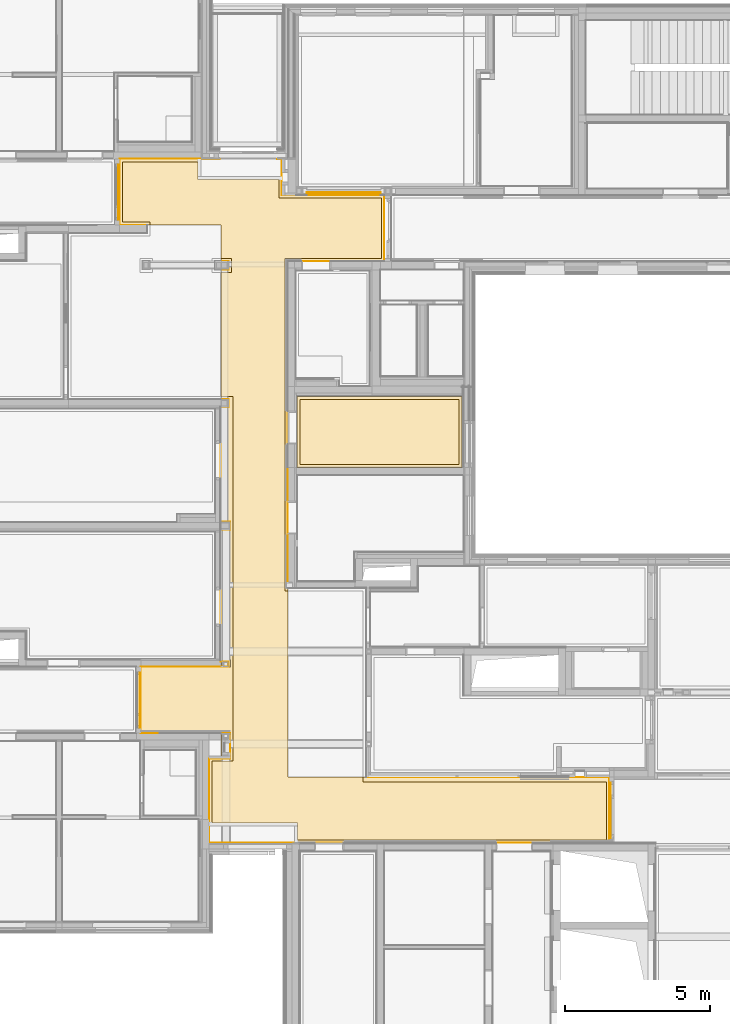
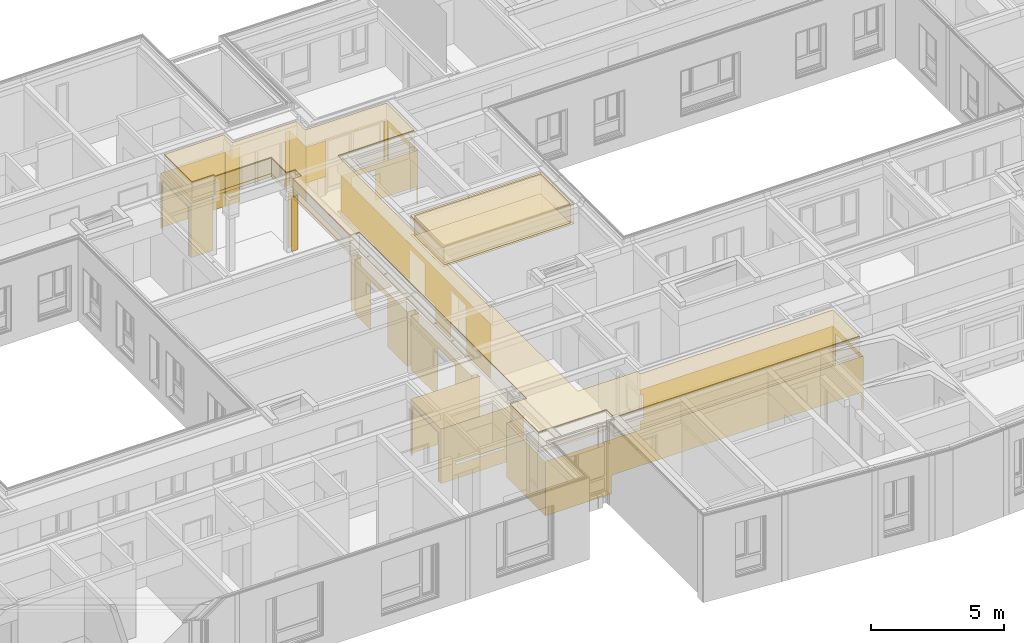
# One storey, part 171 of 222: 14 coverings.
"""IFC4 building model written with IfcOpenShell, lengths in metres."""

from ifc_helpers import new_model, entity, si_unit, converted_unit, derived_unit, frame, frame_2d, origin, place, context, subcontext, project, spatial, polyline, rectangle, outline, extrude, material, layer, layer_set, layer_usage, element, save


model = new_model("IFC4")

# Units and contexts
model_context = context("Model", 3, precision=1e-05, world=origin())
body_context = subcontext(model_context, "Body", "Model", "MODEL_VIEW")
ifc_project = project(units=[si_unit("LENGTHUNIT", "METRE"), si_unit("AREAUNIT", "SQUARE_METRE"), si_unit("VOLUMEUNIT", "CUBIC_METRE"), si_unit("MASSUNIT", "GRAM", prefix="KILO"), converted_unit("PLANEANGLEUNIT", "DEGREE", entity("IfcPlaneAngleMeasure", 0.0174532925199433), si_unit("PLANEANGLEUNIT", "RADIAN"), dimensions=[0, 0, 0, 0, 0, 0, 0]), derived_unit("THERMALTRANSMITTANCEUNIT", [(si_unit("POWERUNIT", "WATT"), 1), (si_unit("THERMODYNAMICTEMPERATUREUNIT", "KELVIN"), -1), (si_unit("LENGTHUNIT", "METRE"), -2)]), derived_unit("VOLUMETRICFLOWRATEUNIT", [(si_unit("LENGTHUNIT", "METRE"), 3), (converted_unit("TIMEUNIT", "hour", entity("IfcTimeMeasure", 3600.0), si_unit("TIMEUNIT", "SECOND"), dimensions=[0, 0, 1, 0, 0, 0, 0]), -1), (si_unit("LENGTHUNIT", "METRE"), -1)])], contexts=[model_context])

# Site, building, storey, space
site_placement = place(None, origin())
site = spatial("IfcSite", under=ifc_project, at=site_placement, Name="Psychiatrie Neubau Wunstorf", CompositionType="ELEMENT")
building_placement = place(site_placement, origin())
building = spatial("IfcBuilding", under=site, at=building_placement, Name="Neubau H2 Stationsgebäude", CompositionType="ELEMENT")
storey_placement = place(building_placement, frame((0.0, 0.0, 3.6)))
storey = spatial("IfcBuildingStorey", under=building, at=storey_placement, Name="H2 Ebene +1", CompositionType="ELEMENT", Elevation=3.6)
space_1_placement = place(storey_placement, frame((32.083, 0.550000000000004, 0.0)))
space_1 = spatial("IfcSpace", under=storey, at=space_1_placement, Name="WUN-H2-E01-F03", CompositionType="ELEMENT")

# Coverings
ifc_material_1 = material(Name="D1")
ifc_layer_1 = layer(ifc_material_1, 0.001)
ifc_layer_set_1 = layer_set([ifc_layer_1])
ifc_layer_usage_1 = layer_usage(ifc_layer_set_1, "AXIS3", "POSITIVE", 0.0)
covering_1_placement = place(space_1_placement, frame((0.0, 0.0, 2.65)))
element("IfcCovering", 1, at=covering_1_placement, inside=space_1, material=ifc_layer_usage_1, Name="Gipsfaserplatten 2-lagig (BSK)", PredefinedType="CEILING", context=body_context, shape_type="SweptSolid", body=[
    extrude(outline(polyline([(16.0461906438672, 15.2824990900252), (16.0461906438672, 13.2924992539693), (7.65649755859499, 13.2924992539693), (7.65649755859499, 13.1149993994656), (16.1461906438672, 13.1149993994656), (16.1461906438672, 15.3824990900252), (5.29250000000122, 15.3824990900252), (5.29250000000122, 14.7964966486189), (2.34600000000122, 14.7964966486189), (2.34600000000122, 12.4617494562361), (2.75150000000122, 12.4617494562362), (2.75150000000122, 11.6017494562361), (0.0, 11.6017494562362), (0.0, 9.3204990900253), (2.75150000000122, 9.32049909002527), (2.75150000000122, 4.5949415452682), (3.08250000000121, 4.5949415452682), (3.08250000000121, 4.3229415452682), (2.75150000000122, 4.3229415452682), (2.75150000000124, 0.372), (3.02750000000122, 0.372), (3.02750000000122, 0.1), (2.75150000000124, 0.1), (2.75150000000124, 0.0), (3.16750000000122, 0.0), (3.16750000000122, 12.5617494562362), (2.44600000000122, 12.5617494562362), (2.44600000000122, 14.6964966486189), (5.39250000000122, 14.6964966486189), (5.39250000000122, 15.2824990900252), (16.0461906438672, 15.2824990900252)]), holes=[polyline([(2.7815000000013, 12.4617494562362), (3.08249501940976, 12.4617494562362), (3.08249501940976, 11.6017494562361), (2.7815000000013, 11.6017494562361), (2.7815000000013, 12.4617494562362)]), polyline([(3.08273964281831, 9.32050052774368), (3.08273964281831, 9.06950052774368), (2.78150000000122, 9.06949909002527), (2.78150000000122, 9.32049909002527), (3.08273964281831, 9.32050052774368)])]), frame((0.735499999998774, 15.3824990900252, 0.0), z_axis=(0.0, 0.0, -1.0), x_axis=(1.0, 0.0, 0.0)), (0.0, 0.0, 1.0), 0.001),
    extrude(outline(polyline([(9.02499999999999, 3.43150563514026), (9.02499999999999, 1.3535009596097), (5.49599999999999, 1.35349729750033), (5.49599999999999, 0.702500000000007), (2.70599999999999, 0.702500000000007), (2.70599999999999, 0.1), (0.0999999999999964, 0.100000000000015), (0.0999999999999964, 2.18149999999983), (1.04999999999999, 2.18149999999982), (1.04999999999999, 2.28149999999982), (0.0, 2.28149999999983), (0.0, 0.0), (2.80599999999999, 0.0), (2.80599999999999, 0.602500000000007), (5.59599999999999, 0.602500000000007), (5.59599999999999, 1.25349729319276), (9.12499999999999, 1.25350095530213), (9.12499999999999, 3.53150563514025), (5.79949999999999, 3.53150197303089), (5.79949999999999, 14.8950037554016), (5.69949999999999, 14.8950037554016), (5.69949999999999, 3.43150197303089), (9.02499999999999, 3.43150563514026)])), frame((0.0, 23.5675, 0.0), z_axis=(0.0, 0.0, -1.0), x_axis=(1.0, 0.0, 0.0)), (0.0, 0.0, 1.0), 0.001),
    extrude(outline(polyline([(0.0, 0.0), (0.376000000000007, 0.0), (0.376000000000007, 0.481998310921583), (0.0, 0.481998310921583), (0.0, 0.382), (0.276000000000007, 0.382), (0.276000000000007, 0.1), (0.0, 0.1), (0.0, 0.0)])), frame((3.48699999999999, 20.1359963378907, 0.0), z_axis=(0.0, 0.0, -1.0), x_axis=(1.0, 0.0, 0.0)), (0.0, 0.0, 1.0), 0.001),
])
ifc_material_2 = material()
ifc_layer_2 = layer(ifc_material_2, 0.036)
ifc_layer_set_2 = layer_set([ifc_layer_2])
ifc_layer_usage_2 = layer_usage(ifc_layer_set_2, "AXIS3", "POSITIVE", 0.0)
covering_2_placement = place(space_1_placement, frame((0.0999999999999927, 0.0999999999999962, 3.55)))
element("IfcCovering", 2, at=covering_2_placement, inside=space_1, material=ifc_layer_usage_2, Name="Gipsfaserplatten 2-lagig (BSK)", PredefinedType="CEILING", context=body_context, shape_type="SweptSolid", body=[
    extrude(outline(polyline([(8.29199755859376, 21.2000003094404), (8.29199755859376, 21.3775001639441), (16.6816906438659, 21.3775001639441), (16.6816906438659, 23.3675), (6.028, 23.3675), (6.028, 22.7814975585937), (3.0815, 22.7814975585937), (3.0815, 20.6467503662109), (3.80299999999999, 20.6467503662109), (3.80299999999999, 8.08500090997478), (3.387, 8.08500090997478), (3.387, 3.81350197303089), (3.763, 3.81350197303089), (3.763, 3.33150366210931), (3.38699999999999, 3.33150366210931), (3.38699999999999, 2.18149999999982), (0.949999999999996, 2.18149999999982), (0.949999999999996, 2.08149999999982), (0.0, 2.08149999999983), (0.0, 0.0), (2.606, 0.0), (2.606, 0.602500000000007), (5.396, 0.602500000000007), (5.396, 1.25349729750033), (8.925, 1.2535009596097), (8.925, 3.33150563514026), (5.5995, 3.33150197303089), (5.5995, 14.7950037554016), (5.6995, 14.7950037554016), (5.6995, 21.2000003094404), (8.29199755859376, 21.2000003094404)])), frame((0.0, 23.3675, 0.0), z_axis=(0.0, 0.0, -1.0), x_axis=(1.0, 0.0, 0.0)), (0.0, 0.0, 1.0), 0.036),
])
ifc_material_3 = material(Name="Installationshöhe")
ifc_layer_3 = layer(ifc_material_3, 0.714)
ifc_layer_set_3 = layer_set([ifc_layer_3])
ifc_layer_usage_3 = layer_usage(ifc_layer_set_3, "AXIS3", "POSITIVE", 0.0)
covering_3_placement = place(space_1_placement, frame((0.0999999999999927, 0.0999999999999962, 3.514)))
element("IfcCovering", 3, at=covering_3_placement, inside=space_1, material=ifc_layer_usage_3, Name="Gipsfaserplatten 2-lagig (BSK)", PredefinedType="CEILING", context=body_context, shape_type="SweptSolid", body=[
    extrude(outline(polyline([(8.29199755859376, 21.2000003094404), (8.29199755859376, 21.3775001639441), (16.6816906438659, 21.3775001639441), (16.6816906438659, 23.3675), (6.028, 23.3675), (6.028, 22.7814975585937), (3.0815, 22.7814975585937), (3.0815, 20.6467503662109), (3.80299999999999, 20.6467503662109), (3.80299999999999, 8.08500090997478), (3.387, 8.08500090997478), (3.387, 3.81350197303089), (3.763, 3.81350197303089), (3.763, 3.33150366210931), (3.38699999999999, 3.33150366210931), (3.38699999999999, 2.18149999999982), (0.949999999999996, 2.18149999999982), (0.949999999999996, 2.08149999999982), (0.0, 2.08149999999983), (0.0, 0.0), (2.606, 0.0), (2.606, 0.602500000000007), (5.396, 0.602500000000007), (5.396, 1.25349729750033), (8.925, 1.2535009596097), (8.925, 3.33150563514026), (5.5995, 3.33150197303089), (5.5995, 14.7950037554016), (5.6995, 14.7950037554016), (5.6995, 21.2000003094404), (8.29199755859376, 21.2000003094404)])), frame((0.0, 23.3675, 0.0), z_axis=(0.0, 0.0, -1.0), x_axis=(1.0, 0.0, 0.0)), (0.0, 0.0, 1.0), 0.714),
])
ifc_material_4 = material(Name="Aa")
ifc_layer_4 = layer(ifc_material_4, 0.15)
ifc_layer_set_4 = layer_set([ifc_layer_4])
ifc_layer_usage_4 = layer_usage(ifc_layer_set_4, "AXIS3", "POSITIVE", 0.0)
covering_4_placement = place(space_1_placement, frame((0.0999999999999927, 0.0999999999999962, 2.8)))
element("IfcCovering", 4, at=covering_4_placement, inside=space_1, material=ifc_layer_usage_4, Name="Gipsfaserplatten 2-lagig (BSK)", PredefinedType="CEILING", context=body_context, shape_type="SweptSolid", body=[
    extrude(outline(polyline([(8.29199755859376, 21.2000003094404), (8.29199755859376, 21.3775001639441), (16.6816906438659, 21.3775001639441), (16.6816906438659, 23.3675), (6.028, 23.3675), (6.028, 22.7814975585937), (3.0815, 22.7814975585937), (3.0815, 20.6467503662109), (3.80299999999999, 20.6467503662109), (3.80299999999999, 8.08500090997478), (3.387, 8.08500090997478), (3.387, 3.81350197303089), (3.763, 3.81350197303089), (3.763, 3.33150366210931), (3.38699999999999, 3.33150366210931), (3.38699999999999, 2.18149999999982), (0.949999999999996, 2.18149999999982), (0.949999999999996, 2.08149999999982), (0.0, 2.08149999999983), (0.0, 0.0), (2.606, 0.0), (2.606, 0.602500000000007), (5.396, 0.602500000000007), (5.396, 1.25349729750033), (8.925, 1.2535009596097), (8.925, 3.33150563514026), (5.5995, 3.33150197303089), (5.5995, 14.7950037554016), (5.6995, 14.7950037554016), (5.6995, 21.2000003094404), (8.29199755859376, 21.2000003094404)])), frame((0.0, 23.3675, 0.0), z_axis=(0.0, 0.0, -1.0), x_axis=(1.0, 0.0, 0.0)), (0.0, 0.0, 1.0), 0.15),
])
ifc_material_5 = material(Name="D1")
ifc_layer_5 = layer(ifc_material_5, 0.001)
ifc_layer_set_5 = layer_set([ifc_layer_5])
ifc_layer_usage_5 = layer_usage(ifc_layer_set_5, "AXIS3", "POSITIVE", 0.0)
covering_5_placement = place(space_1_placement, frame((0.0999999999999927, 0.0999999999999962, 2.65)))
element("IfcCovering", 5, at=covering_5_placement, inside=space_1, material=ifc_layer_usage_5, Name="Gipsfaserplatten 2-lagig (BSK)", PredefinedType="CEILING", context=body_context, shape_type="SweptSolid", body=[
    extrude(outline(polyline([(8.29199755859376, 21.2000003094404), (8.29199755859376, 21.3775001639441), (16.6816906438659, 21.3775001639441), (16.6816906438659, 23.3675), (6.028, 23.3675), (6.028, 22.7814975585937), (3.0815, 22.7814975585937), (3.0815, 20.6467503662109), (3.80299999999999, 20.6467503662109), (3.80299999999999, 8.08500090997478), (3.387, 8.08500090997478), (3.387, 3.81350197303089), (3.763, 3.81350197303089), (3.763, 3.33150366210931), (3.38699999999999, 3.33150366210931), (3.38699999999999, 2.18149999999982), (0.949999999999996, 2.18149999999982), (0.949999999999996, 2.08149999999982), (0.0, 2.08149999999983), (0.0, 0.0), (2.606, 0.0), (2.606, 0.602500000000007), (5.396, 0.602500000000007), (5.396, 1.25349729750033), (8.925, 1.2535009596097), (8.925, 3.33150563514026), (5.5995, 3.33150197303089), (5.5995, 14.7950037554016), (5.6995, 14.7950037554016), (5.6995, 21.2000003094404), (8.29199755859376, 21.2000003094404)])), frame((0.0, 23.3675, 0.0), z_axis=(0.0, 0.0, -1.0), x_axis=(1.0, 0.0, 0.0)), (0.0, 0.0, 1.0), 0.001),
])
ifc_material_6 = material(Name="49")
ifc_layer_6 = layer(ifc_material_6, 0.001)
ifc_layer_set_6 = layer_set([ifc_layer_6])
ifc_layer_usage_6 = layer_usage(ifc_layer_set_6, "AXIS3", "POSITIVE", 0.0)
covering_6_placement = place(space_1_placement, frame((-0.04, 2.44140629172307e-06, 0.15)))
element("IfcCovering", 6, at=covering_6_placement, inside=space_1, material=ifc_layer_usage_6, PredefinedType="CLADDING", context=body_context, shape_type="SweptSolid", body=[
    extrude(rectangle(XDim=0.33099501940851, YDim=2.5, at=frame_2d((0.165497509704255, -1.25), x_axis=(1.0, 0.0))), frame((3.52699999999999, 3.77574719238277, 0.0), z_axis=(0.0, 1.0, 0.0), x_axis=(1.0, 0.0, 0.0)), (0.0, 0.0, 1.0), 0.001),
    extrude(rectangle(XDim=0.874999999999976, YDim=2.5, at=frame_2d((0.437499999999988, -1.25), x_axis=(1.0, 0.0))), frame((3.8579950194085, 3.77574719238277, 0.0), z_axis=(1.0, 0.0, 0.0), x_axis=(0.0, -1.0, 0.0)), (0.0, 0.0, 1.0), 0.001),
    extrude(rectangle(XDim=0.736495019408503, YDim=2.5, at=frame_2d((0.368247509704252, -1.25), x_axis=(1.0, 0.0))), frame((3.8579950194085, 2.90074719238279, 0.0), z_axis=(0.0, -1.0, 0.0), x_axis=(-1.0, 0.0, 0.0)), (0.0, 0.0, 1.0), 0.001),
    extrude(rectangle(XDim=2.90074719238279, YDim=2.5, at=frame_2d((1.4503735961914, -1.25), x_axis=(1.0, 0.0))), frame((3.12149999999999, 2.90074719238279, 0.0), z_axis=(1.0, 0.0, 0.0), x_axis=(0.0, -1.0, 0.0)), (0.0, 0.0, 1.0), 0.001),
    extrude(outline(polyline([(0.0, 2.49999999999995), (2.86550000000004, 2.49999999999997), (2.86550000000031, 1.65000000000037), (13.8001906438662, 1.65000000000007), (13.8001906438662, 0.0), (0.0, 0.0), (0.0, 2.49999999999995)])), frame((3.12149999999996, -2.67035381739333e-07, 2.50000000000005), z_axis=(1.38210810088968e-07, 0.999999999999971, -1.95444338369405e-07), x_axis=(0.999999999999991, -1.3821081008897e-07, 0.0)), (0.0, 0.0, 1.0), 0.001),
    extrude(outline(polyline([(0.0, 2.5), (0.129999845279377, 2.5), (0.129999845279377, 0.24), (2.11249984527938, 0.24), (2.11249984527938, 2.5), (2.26749969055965, 2.5), (2.26749969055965, 0.0), (0.0, 0.0), (0.0, 2.5)])), frame((16.921690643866, -2.44140629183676e-06, 2.5), z_axis=(-1.0, 4.2473840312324e-31, -1.85167408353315e-15), x_axis=(4.2473840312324e-31, 1.0, 0.0)), (0.0, 0.0, 1.0), 0.001),
    extrude(outline(polyline([(0.0, 2.5), (8.38969308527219, 2.5), (8.38969308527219, 1.42), (8.23969308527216, 1.42), (8.23969308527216, 0.24), (8.38969308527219, 0.24), (8.38969308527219, 0.0), (0.0, 0.0), (0.0, 2.5)])), frame((16.9216906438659, 2.26749724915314, 2.5), z_axis=(3.25218583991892e-16, -1.0, -5.04805681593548e-30), x_axis=(-1.0, -3.25218583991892e-16, 0.0)), (0.0, 0.0, 1.0), 0.001),
    extrude(outline(polyline([(0.0, 2.5), (1.86600344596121, 2.5), (1.86600344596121, 0.24), (3.00100344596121, 0.24), (3.00100344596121, 2.5), (4.16550038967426, 2.5), (4.16550038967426, 1.65), (4.96600375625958, 1.65), (4.96600375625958, 0.24), (6.10100375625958, 0.24), (6.10100375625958, 1.65), (11.2620017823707, 1.65), (11.2620017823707, 0.0), (0.0, 0.0), (0.0, 2.5)])), frame((5.83949999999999, 8.77399380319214, 2.5), z_axis=(-1.0, -4.82961702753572e-16, 6.82967661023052e-16), x_axis=(-4.82961702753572e-16, 1.0, 0.0)), (0.0, 0.0, 1.0), 0.001),
    extrude(outline(polyline([(3.32550000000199, 1.65000000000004), (3.32550000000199, 0.0), (0.0, 0.0), (0.0, 1.64999999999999), (0.467500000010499, 1.64999999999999), (0.467500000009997, 0.239999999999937), (1.47750000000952, 0.239999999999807), (1.47750000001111, 1.65000000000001), (3.32550000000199, 1.65000000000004)])), frame((5.8395000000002, 20.0359958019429, 2.49999999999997), z_axis=(9.73482469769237e-07, 0.999999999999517, -1.32154689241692e-07), x_axis=(0.999999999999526, -9.73482469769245e-07, 0.0)), (0.0, 0.0, 1.0), 0.001),
    extrude(outline(polyline([(0.0, 2.5), (0.107504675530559, 2.5), (0.107504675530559, 0.24), (2.17050467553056, 0.24), (2.17050467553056, 2.5), (2.27800467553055, 2.5), (2.27800467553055, 0.0), (0.0, 0.0), (0.0, 2.5)])), frame((9.16499999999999, 20.0359919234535, 2.5), z_axis=(-1.0, -5.52435030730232e-17, 9.99217938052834e-16), x_axis=(-5.52435030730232e-17, 1.0, 0.0)), (0.0, 0.0, 1.0), 0.001),
    extrude(rectangle(XDim=1.65, YDim=0.851250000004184, at=frame_2d((-0.425625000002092, -0.825), x_axis=(0.0, -1.0))), frame((5.63599999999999, 22.3140002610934, 0.85), z_axis=(-1.03771872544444e-06, -0.999999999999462, 0.0), x_axis=(-0.999999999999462, 1.03771872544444e-06, 0.0)), (0.0, 0.0, 1.0), 0.001),
    extrude(rectangle(XDim=1.65, YDim=0.12774999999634, at=frame_2d((-0.0638749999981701, -0.825), x_axis=(0.0, -1.0))), frame((9.03725000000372, 22.3139967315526, 0.85), z_axis=(-1.03771871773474e-06, -0.999999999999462, 0.0), x_axis=(-0.999999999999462, 1.03771871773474e-06, 0.0)), (0.0, 0.0, 1.0), 0.001),
    extrude(rectangle(XDim=1.25000095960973, YDim=2.5, at=frame_2d((0.625000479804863, -1.25), x_axis=(1.0, 0.0))), frame((5.63599999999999, 22.3140002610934, 0.0), z_axis=(-1.0, 0.0, 0.0), x_axis=(0.0, 1.0, 0.0)), (0.0, 0.0, 1.0), 0.001),
    extrude(rectangle(XDim=0.17, YDim=2.5, at=frame_2d((0.085, -1.25), x_axis=(1.0, 0.0))), frame((5.63599999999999, 23.5640012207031, 0.0), z_axis=(0.0, -1.0, 0.0), x_axis=(-1.0, 0.0, 0.0)), (0.0, 0.0, 1.0), 0.001),
    extrude(rectangle(XDim=2.5, YDim=0.637001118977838, at=frame_2d((0.318500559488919, 1.25), x_axis=(0.0, 1.0))), frame((3.48300111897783, 23.5640012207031, 2.5), z_axis=(0.0, -1.0, 0.0), x_axis=(-1.0, 0.0, 0.0)), (0.0, 0.0, 1.0), 0.001),
    extrude(rectangle(XDim=0.00349633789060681, YDim=2.5, at=frame_2d((0.00174816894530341, -1.25), x_axis=(1.0, 0.0))), frame((2.84599999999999, 23.5640012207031, 0.0), z_axis=(-1.0, 0.0, 0.0), x_axis=(0.0, 1.0, 0.0)), (0.0, 0.0, 1.0), 0.001),
    extrude(rectangle(XDim=2.80599999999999, YDim=2.5, at=frame_2d((1.403, -1.25), x_axis=(1.0, 0.0))), frame((2.84599999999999, 23.5674975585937, 0.0), z_axis=(5.18599972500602e-15, -1.0, 0.0), x_axis=(-1.0, -5.18599972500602e-15, 0.0)), (0.0, 0.0, 1.0), 0.001),
    extrude(outline(polyline([(0.0, 2.5), (0.154999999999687, 2.5), (0.154999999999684, 0.24), (2.12649999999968, 0.24), (2.12649999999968, 2.5), (2.28149999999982, 2.5), (2.28149999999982, 0.0), (0.0, 0.0), (0.0, 2.5)])), frame((0.0399999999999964, 23.5674975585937, 2.5), z_axis=(1.0, 0.0, -9.17962516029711e-16), x_axis=(0.0, -1.0, 0.0)), (0.0, 0.0, 1.0), 0.001),
    extrude(rectangle(XDim=0.949999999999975, YDim=2.5, at=frame_2d((0.474999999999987, -1.25), x_axis=(1.0, 0.0))), frame((0.04, 21.2859975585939, 0.0), z_axis=(-3.8294513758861e-15, 1.0, 0.0), x_axis=(1.0, 3.8294513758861e-15, 0.0)), (0.0, 0.0, 1.0), 0.001),
    extrude(rectangle(XDim=0.276000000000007, YDim=2.5, at=frame_2d((0.138000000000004, -1.25), x_axis=(1.0, 0.0))), frame((3.52699999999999, 20.0359938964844, 0.0), z_axis=(0.0, 1.0, 0.0), x_axis=(1.0, 0.0, 0.0)), (0.0, 0.0, 1.0), 0.001),
    extrude(rectangle(XDim=0.282, YDim=2.5, at=frame_2d((0.141, -1.25), x_axis=(1.0, 0.0))), frame((3.80299999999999, 20.0359938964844, 0.0), z_axis=(1.0, 0.0, 0.0), x_axis=(0.0, -1.0, 0.0)), (0.0, 0.0, 1.0), 0.001),
    extrude(rectangle(XDim=0.276, YDim=2.5, at=frame_2d((0.138, -1.25), x_axis=(1.0, 0.0))), frame((3.80299999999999, 19.7539938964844, 0.0), z_axis=(0.0, -1.0, 0.0), x_axis=(-1.0, 0.0, 0.0)), (0.0, 0.0, 1.0), 0.001),
    extrude(rectangle(XDim=0.275999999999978, YDim=2.5, at=frame_2d((0.137999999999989, -1.25), x_axis=(1.0, 0.0))), frame((3.52700000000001, 15.2824966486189, 0.0), z_axis=(0.0, 1.0, 0.0), x_axis=(1.0, 0.0, 0.0)), (0.0, 0.0, 1.0), 0.001),
    extrude(rectangle(XDim=0.272, YDim=2.5, at=frame_2d((0.136, -1.25), x_axis=(1.0, 0.0))), frame((3.80299999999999, 15.2824966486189, 0.0), z_axis=(1.0, 0.0, 0.0), x_axis=(0.0, -1.0, 0.0)), (0.0, 0.0, 1.0), 0.001),
    extrude(rectangle(XDim=0.275999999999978, YDim=2.5, at=frame_2d((0.137999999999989, -1.25), x_axis=(1.0, 0.0))), frame((3.80299999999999, 15.0104966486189, 0.0), z_axis=(0.0, -1.0, 0.0), x_axis=(-1.0, 0.0, 0.0)), (0.0, 0.0, 1.0), 0.001),
    extrude(outline(polyline([(0.0, 2.5), (1.20049909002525, 2.5), (1.20049909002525, 0.24), (2.46049909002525, 0.24), (2.46049909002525, 2.5), (3.9509415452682, 2.5), (3.9509415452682, 0.0), (0.0, 0.0), (0.0, 2.5)])), frame((3.52700000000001, 15.0104966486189, 2.5), z_axis=(1.0, -4.8223121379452e-15, 6.75734574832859e-16), x_axis=(-4.8223121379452e-15, -1.0, 0.0)), (0.0, 0.0, 1.0), 0.001),
    extrude(rectangle(XDim=0.330999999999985, YDim=2.5, at=frame_2d((0.165499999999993, -1.25), x_axis=(1.0, 0.0))), frame((3.52699999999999, 11.0595551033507, 0.0), z_axis=(0.0, 1.0, 0.0), x_axis=(1.0, 0.0, 0.0)), (0.0, 0.0, 1.0), 0.001),
    extrude(rectangle(XDim=0.272, YDim=2.5, at=frame_2d((0.136, -1.25), x_axis=(1.0, 0.0))), frame((3.85799999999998, 11.0595551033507, 0.0), z_axis=(1.0, 0.0, 0.0), x_axis=(0.0, -1.0, 0.0)), (0.0, 0.0, 1.0), 0.001),
    extrude(rectangle(XDim=0.330999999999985, YDim=2.5, at=frame_2d((0.165499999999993, -1.25), x_axis=(1.0, 0.0))), frame((3.85799999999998, 10.7875551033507, 0.0), z_axis=(0.0, -1.0, 0.0), x_axis=(-1.0, 0.0, 0.0)), (0.0, 0.0, 1.0), 0.001),
    extrude(outline(polyline([(0.0, 2.5), (2.0275534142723, 2.5), (2.0275534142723, 0.24), (3.2875534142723, 0.24), (3.2875534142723, 2.5), (4.54055754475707, 2.5), (4.54055754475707, 0.0), (0.0, 0.0), (0.0, 2.5)])), frame((3.52699999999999, 10.7875551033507, 2.5), z_axis=(1.0, -1.43232092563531e-15, 1.6636560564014e-15), x_axis=(-1.43232092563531e-15, -1.0, 0.0)), (0.0, 0.0, 1.0), 0.001),
    extrude(rectangle(XDim=0.265239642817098, YDim=2.5, at=frame_2d((0.132619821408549, -1.25), x_axis=(1.0, 0.0))), frame((3.52699999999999, 6.24699755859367, 0.0), z_axis=(0.0, 1.0, 0.0), x_axis=(1.0, 0.0, 0.0)), (0.0, 0.0, 1.0), 0.001),
    extrude(rectangle(XDim=0.180001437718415, YDim=2.5, at=frame_2d((0.0900007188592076, -1.25), x_axis=(1.0, 0.0))), frame((3.79223964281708, 6.24699755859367, 0.0), z_axis=(1.0, 0.0, 0.0), x_axis=(0.0, -1.0, 0.0)), (0.0, 0.0, 1.0), 0.001),
    extrude(rectangle(XDim=0.264995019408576, YDim=2.5, at=frame_2d((0.132497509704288, -1.25), x_axis=(1.0, 0.0))), frame((3.79223964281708, 6.06699612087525, 0.0), z_axis=(0.0, -1.0, 0.0), x_axis=(-1.0, 0.0, 0.0)), (0.0, 0.0, 1.0), 0.001),
    extrude(rectangle(XDim=0.00499856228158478, YDim=2.5, at=frame_2d((0.00249928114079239, -1.25), x_axis=(1.0, 0.0))), frame((3.52724462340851, 6.06699612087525, 0.0), z_axis=(1.0, 0.0, 0.0), x_axis=(0.0, -1.0, 0.0)), (0.0, 0.0, 1.0), 0.001),
    extrude(rectangle(XDim=2.75174462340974, YDim=2.5, at=frame_2d((1.37587231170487, -1.25), x_axis=(1.0, 0.0))), frame((3.52724462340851, 6.06199755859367, 0.0), z_axis=(1.18985639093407e-14, -1.0, 0.0), x_axis=(-1.0, -1.18985639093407e-14, 0.0)), (0.0, 0.0, 1.0), 0.001),
    extrude(outline(polyline([(0.0, 2.5), (0.155000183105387, 2.5), (0.155000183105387, 0.24), (2.12630018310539, 0.24), (2.12630018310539, 2.5), (2.28125036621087, 2.5), (2.28125036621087, 0.0), (0.0, 0.0), (0.0, 2.5)])), frame((0.77549999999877, 6.06199755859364, 2.5), z_axis=(1.0, 0.0, 0.0), x_axis=(0.0, -1.0, 0.0)), (0.0, 0.0, 1.0), 0.001),
    extrude(outline(polyline([(0.0, 2.5), (2.75150000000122, 2.5), (2.75150000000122, 1.85), (0.651500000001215, 1.85), (0.651500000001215, 1.75), (2.75150000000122, 1.75), (2.75150000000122, 0.0), (0.0, 0.0), (0.0, 2.5)])), frame((0.77549999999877, 3.78074719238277, 2.5), z_axis=(0.0, 1.0, 0.0), x_axis=(1.0, 0.0, 0.0)), (0.0, 0.0, 1.0), 0.001),
    extrude(rectangle(XDim=0.005, YDim=2.5, at=frame_2d((0.0025, -1.25), x_axis=(1.0, 0.0))), frame((3.52699999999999, 3.78074719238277, 0.0), z_axis=(1.0, 0.0, 0.0), x_axis=(0.0, -1.0, 0.0)), (0.0, 0.0, 1.0), 0.001),
    extrude(rectangle(XDim=2.26, YDim=0.0375, at=frame_2d((0.01875, 1.13), x_axis=(0.0, 1.0))), frame((16.9591906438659, 2.11249740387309, 2.26), z_axis=(6.06329801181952e-15, -1.0, -1.00607820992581e-16), x_axis=(-1.0, -6.06329801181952e-15, 0.0)), (0.0, 0.0, 1.0), 0.001),
    extrude(rectangle(XDim=1.9825, YDim=0.0375, at=frame_2d((-0.01875, -0.99125), x_axis=(0.0, -1.0))), frame((16.9591906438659, 0.129997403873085, 2.26), z_axis=(0.0, 0.0, -1.0), x_axis=(1.0, 0.0, 0.0)), (0.0, 0.0, 1.0), 0.001),
    extrude(rectangle(XDim=0.0375, YDim=2.26, at=frame_2d((0.01875, -1.13), x_axis=(1.0, -1.2126596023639e-14))), frame((16.9216906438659, 0.129997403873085, 0.0), z_axis=(0.0, 1.0, 0.0), x_axis=(1.0, 0.0, 0.0)), (0.0, 0.0, 1.0), 0.001),
    extrude(rectangle(XDim=0.104996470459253, YDim=2.5, at=frame_2d((0.0524982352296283, -1.25), x_axis=(1.0, 0.0))), frame((9.03725000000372, 22.3140002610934, 0.0), z_axis=(-1.0, 0.0, 0.0), x_axis=(0.0, 1.0, 0.0)), (0.0, 0.0, 1.0), 0.001),
    extrude(outline(polyline([(0.0, 0.104999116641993), (2.55, 0.104999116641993), (2.55, 2.6461827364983e-06), (0.0, 0.0), (0.0, 0.104999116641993)])), frame((6.48725000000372, 22.4189993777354, 2.5), z_axis=(0.0, 0.0, -1.0), x_axis=(1.0, 0.0, 0.0)), (0.0, 0.0, 1.0), 0.001),
    extrude(rectangle(XDim=2.5, YDim=0.104999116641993, at=frame_2d((0.0524995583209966, 1.25), x_axis=(0.0, 1.0))), frame((6.48725000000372, 22.4189993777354, 2.5), z_axis=(1.0, 0.0, 0.0), x_axis=(0.0, -1.0, 0.0)), (0.0, 0.0, 1.0), 0.001),
    extrude(rectangle(XDim=0.065, YDim=2.5, at=frame_2d((0.0325, -1.25), x_axis=(1.0, 0.0))), frame((5.46599999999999, 23.5640012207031, 0.0), z_axis=(-1.0, 0.0, 0.0), x_axis=(0.0, 1.0, 0.0)), (0.0, 0.0, 1.0), 0.001),
    extrude(rectangle(XDim=0.065, YDim=2.5, at=frame_2d((-0.0325, 1.25), x_axis=(-1.0, 1.3992226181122e-14))), frame((3.48300111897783, 23.5640012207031, 2.5), z_axis=(1.0, 0.0, 0.0), x_axis=(0.0, -1.0, 0.0)), (0.0, 0.0, 1.0), 0.001),
    extrude(rectangle(XDim=2.26, YDim=0.0400000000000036, at=frame_2d((0.02, 1.13), x_axis=(-1.60972513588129e-15, 1.0))), frame((0.0, 21.440997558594, 2.26), z_axis=(0.0, 1.0, 0.0), x_axis=(1.0, 0.0, 0.0)), (0.0, 0.0, 1.0), 0.001),
    extrude(rectangle(XDim=1.9715, YDim=0.04, at=frame_2d((0.02, 0.98575), x_axis=(0.0, 1.0))), frame((0.0, 23.412497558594, 2.26), z_axis=(0.0, 0.0, -1.0), x_axis=(1.0, 0.0, 0.0)), (0.0, 0.0, 1.0), 0.001),
    extrude(rectangle(XDim=0.04, YDim=2.26, at=frame_2d((0.02, -1.13), x_axis=(1.0, -1.13686837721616e-14))), frame((0.04, 23.412497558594, 0.0), z_axis=(0.0, -1.0, 0.0), x_axis=(-1.0, 0.0, 0.0)), (0.0, 0.0, 1.0), 0.001),
    extrude(rectangle(XDim=2.26, YDim=0.04, at=frame_2d((0.02, 1.13), x_axis=(0.0, 1.0))), frame((0.73549999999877, 3.93569737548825, 2.26), z_axis=(0.0, 1.0, 0.0), x_axis=(1.0, 0.0, 0.0)), (0.0, 0.0, 1.0), 0.001),
    extrude(rectangle(XDim=1.9713, YDim=0.04, at=frame_2d((0.02, 0.98565), x_axis=(0.0, 1.0))), frame((0.73549999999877, 5.90699737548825, 2.26), z_axis=(0.0, 0.0, -1.0), x_axis=(1.0, 0.0, 0.0)), (0.0, 0.0, 1.0), 0.001),
    extrude(rectangle(XDim=0.04, YDim=2.26, at=frame_2d((0.02, -1.13), x_axis=(1.0, 0.0))), frame((0.77549999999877, 5.90699737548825, 0.0), z_axis=(0.0, -1.0, 0.0), x_axis=(-1.0, 0.0, 0.0)), (0.0, 0.0, 1.0), 0.001),
])

# Space
space_2_placement = place(storey_placement, frame((38.204, 13.4894966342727, 0.0)))
space_2 = spatial("IfcSpace", under=storey, at=space_2_placement, Name="WUN-H2-E01-010", CompositionType="ELEMENT")

# Coverings
ifc_material_7 = material()
ifc_layer_7 = layer(ifc_material_7, 0.036)
ifc_layer_set_7 = layer_set([ifc_layer_7])
ifc_layer_usage_7 = layer_usage(ifc_layer_set_7, "AXIS3", "POSITIVE", 0.0)
covering_7_placement = place(space_2_placement, frame((0.0, 0.0, 3.55)))
element("IfcCovering", 7, at=covering_7_placement, inside=space_2, material=ifc_layer_usage_7, Name="Gipsfaserplatten 2-lagig (BSK)", PredefinedType="CEILING", context=body_context, shape_type="SweptSolid", body=[
    extrude(outline(polyline([(5.67600000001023, 2.44600941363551), (0.000500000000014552, 2.44600941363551), (0.0, 0.0), (5.67600000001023, 0.0), (5.67600000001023, 2.44600941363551)])), frame((0.0, 2.44600941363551, 0.0), z_axis=(0.0, 0.0, -1.0), x_axis=(1.0, 0.0, 0.0)), (0.0, 0.0, 1.0), 0.036),
])
ifc_material_8 = material(Name="Installationshöhe")
ifc_layer_8 = layer(ifc_material_8, 0.764)
ifc_layer_set_8 = layer_set([ifc_layer_8])
ifc_layer_usage_8 = layer_usage(ifc_layer_set_8, "AXIS3", "POSITIVE", 0.0)
covering_8_placement = place(space_2_placement, frame((0.0, 0.0, 3.514)))
element("IfcCovering", 8, at=covering_8_placement, inside=space_2, material=ifc_layer_usage_8, Name="Gipsfaserplatten 2-lagig (BSK)", PredefinedType="CEILING", context=body_context, shape_type="SweptSolid", body=[
    extrude(outline(polyline([(5.67600000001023, 2.44600941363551), (0.000500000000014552, 2.44600941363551), (0.0, 0.0), (5.67600000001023, 0.0), (5.67600000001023, 2.44600941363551)])), frame((0.0, 2.44600941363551, 0.0), z_axis=(0.0, 0.0, -1.0), x_axis=(1.0, 0.0, 0.0)), (0.0, 0.0, 1.0), 0.764),
])
ifc_material_9 = material(Name="H7a")
ifc_layer_9 = layer(ifc_material_9, 0.1)
ifc_layer_set_9 = layer_set([ifc_layer_9])
ifc_layer_usage_9 = layer_usage(ifc_layer_set_9, "AXIS3", "POSITIVE", 0.0)
covering_9_placement = place(space_2_placement, frame((0.0, 0.0, 2.75)))
element("IfcCovering", 9, at=covering_9_placement, inside=space_2, material=ifc_layer_usage_9, Name="Kühldecke glatt", PredefinedType="CEILING", context=body_context, shape_type="SweptSolid", body=[
    extrude(outline(polyline([(5.67600000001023, 2.44600941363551), (0.000500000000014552, 2.44600941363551), (0.0, 0.0), (5.67600000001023, 0.0), (5.67600000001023, 2.44600941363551)])), frame((0.0, 2.44600941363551, 0.0), z_axis=(0.0, 0.0, -1.0), x_axis=(1.0, 0.0, 0.0)), (0.0, 0.0, 1.0), 0.1),
])
ifc_material_10 = material(Name="D1")
ifc_layer_10 = layer(ifc_material_10, 0.001)
ifc_layer_set_10 = layer_set([ifc_layer_10])
ifc_layer_usage_10 = layer_usage(ifc_layer_set_10, "AXIS3", "POSITIVE", 0.0)
covering_10_placement = place(space_2_placement, frame((0.0, 0.0, 2.65)))
element("IfcCovering", 10, at=covering_10_placement, inside=space_2, material=ifc_layer_usage_10, Name="Gipsfaserplatten 2-lagig (BSK)", PredefinedType="CEILING", context=body_context, shape_type="SweptSolid", body=[
    extrude(outline(polyline([(5.67600000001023, 2.44600941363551), (0.000500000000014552, 2.44600941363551), (0.0, 0.0), (5.67600000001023, 0.0), (5.67600000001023, 2.44600941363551)])), frame((0.0, 2.44600941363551, 0.0), z_axis=(0.0, 0.0, -1.0), x_axis=(1.0, 0.0, 0.0)), (0.0, 0.0, 1.0), 0.001),
])
ifc_material_11 = material()
ifc_layer_11 = layer(ifc_material_11, 0.036)
ifc_layer_set_11 = layer_set([ifc_layer_11])
ifc_layer_usage_11 = layer_usage(ifc_layer_set_11, "AXIS3", "POSITIVE", 0.0)
covering_11_placement = place(space_2_placement, frame((0.100500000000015, 0.1, 3.55)))
element("IfcCovering", 11, at=covering_11_placement, inside=space_2, material=ifc_layer_usage_11, Name="Gipsfaserplatten 2-lagig (BSK)", PredefinedType="CEILING", context=body_context, shape_type="SweptSolid", body=[
    extrude(rectangle(XDim=5.47550000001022, YDim=2.24600941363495, at=frame_2d((2.73775000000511, 1.12300470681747), x_axis=(1.0, 0.0))), frame((0.0, 2.24600941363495, 0.0), z_axis=(0.0, 0.0, -1.0), x_axis=(1.0, 0.0, 0.0)), (0.0, 0.0, 1.0), 0.036),
])
ifc_material_12 = material(Name="Installationshöhe")
ifc_layer_12 = layer(ifc_material_12, 0.764)
ifc_layer_set_12 = layer_set([ifc_layer_12])
ifc_layer_usage_12 = layer_usage(ifc_layer_set_12, "AXIS3", "POSITIVE", 0.0)
covering_12_placement = place(space_2_placement, frame((0.100500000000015, 0.1, 3.514)))
element("IfcCovering", 12, at=covering_12_placement, inside=space_2, material=ifc_layer_usage_12, Name="Gipsfaserplatten 2-lagig (BSK)", PredefinedType="CEILING", context=body_context, shape_type="SweptSolid", body=[
    extrude(rectangle(XDim=5.47550000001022, YDim=2.24600941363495, at=frame_2d((2.73775000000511, 1.12300470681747), x_axis=(1.0, 0.0))), frame((0.0, 2.24600941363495, 0.0), z_axis=(0.0, 0.0, -1.0), x_axis=(1.0, 0.0, 0.0)), (0.0, 0.0, 1.0), 0.764),
])
ifc_material_13 = material(Name="H7b")
ifc_layer_13 = layer(ifc_material_13, 0.1)
ifc_layer_set_13 = layer_set([ifc_layer_13])
ifc_layer_usage_13 = layer_usage(ifc_layer_set_13, "AXIS3", "POSITIVE", 0.0)
covering_13_placement = place(space_2_placement, frame((0.100500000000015, 0.1, 2.75)))
element("IfcCovering", 13, at=covering_13_placement, inside=space_2, material=ifc_layer_usage_13, Name="Kühldecke gelocht", PredefinedType="CEILING", context=body_context, shape_type="SweptSolid", body=[
    extrude(rectangle(XDim=5.47550000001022, YDim=2.24600941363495, at=frame_2d((2.73775000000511, 1.12300470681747), x_axis=(1.0, 0.0))), frame((0.0, 2.24600941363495, 0.0), z_axis=(0.0, 0.0, -1.0), x_axis=(1.0, 0.0, 0.0)), (0.0, 0.0, 1.0), 0.1),
])
ifc_material_14 = material(Name="D1")
ifc_layer_14 = layer(ifc_material_14, 0.001)
ifc_layer_set_14 = layer_set([ifc_layer_14])
ifc_layer_usage_14 = layer_usage(ifc_layer_set_14, "AXIS3", "POSITIVE", 0.0)
covering_14_placement = place(space_2_placement, frame((0.100500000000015, 0.1, 2.65)))
element("IfcCovering", 14, at=covering_14_placement, inside=space_2, material=ifc_layer_usage_14, Name="Gipsfaserplatten 2-lagig (BSK)", PredefinedType="CEILING", context=body_context, shape_type="SweptSolid", body=[
    extrude(rectangle(XDim=5.47550000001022, YDim=2.24600941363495, at=frame_2d((2.73775000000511, 1.12300470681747), x_axis=(1.0, 0.0))), frame((0.0, 2.24600941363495, 0.0), z_axis=(0.0, 0.0, -1.0), x_axis=(1.0, 0.0, 0.0)), (0.0, 0.0, 1.0), 0.001),
])

save(model, "model.ifc")
